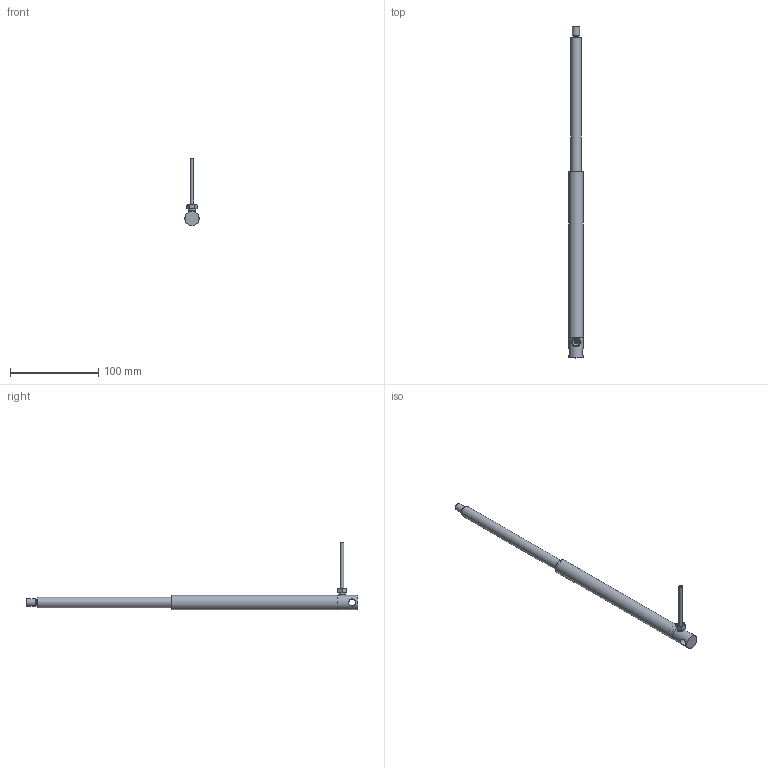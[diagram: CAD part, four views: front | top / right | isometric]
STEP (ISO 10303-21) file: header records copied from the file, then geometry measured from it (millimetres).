
FILE_DESCRIPTION(/* description */ ('Unknown'),/* implementation_level */ '2;1');
FILE_NAME(/* name */ '107.00071 Zylinder CE 1415_ausgefahren',/* time_stamp */ '2018-05-18T17:04:50+02:00',/* author */ ('Unknown'),/* organization */ ('Unknown'),/* preprocessor_version */ 'ST-DEVELOPER v16.7',/* originating_system */ 'DEX',/* authorisation */ $);
FILE_SCHEMA (('AUTOMOTIVE_DESIGN {1 0 10303 214 3 1 1}'));
Length unit declared in the file: millimetre
Products named in the file (9): 107.00071; 121.00001; 142.00021; 125.00021; 115.00001_oa_0; 125.00034; 120.00021; 122.00001; 113.00002_70mm
Assembly tree (8 placements, depth 2):
  107.00071
    121.00001
    142.00021
    125.00021
    115.00001_oa_0
    125.00034
    120.00021
    122.00001
    113.00002_70mm
Bounding box: 16 x 376 x 76 mm (x, y, z)
Volume: 35035.3 mm3; surface area: 30957.8 mm2
Topology: 7 solids, 7 shells, 86 faces, 182 edges, 116 vertices
Faces by surface type: plane 29, cylinder 28, cone 23, torus 5, sphere 1
Full cylindrical faces by diameter (mm): 2.2 x1, 3 x1, 3.5 x1, 4 x1, 4.1 x1, 4.2 x1, 6 x1, 6.917 x2, 7.763 x2, 8 x5, 8.1 x3, 9 x1, 12 x2, 13.9 x2, 14 x2, 16 x2
Entity records: 2678 total; most frequent: CARTESIAN_POINT 430, DIRECTION 356, ORIENTED_EDGE 220, AXIS2_PLACEMENT_3D 169, FACE_BOUND 161, EDGE_LOOP 159, EDGE_CURVE 110, VERTEX_POINT 99
